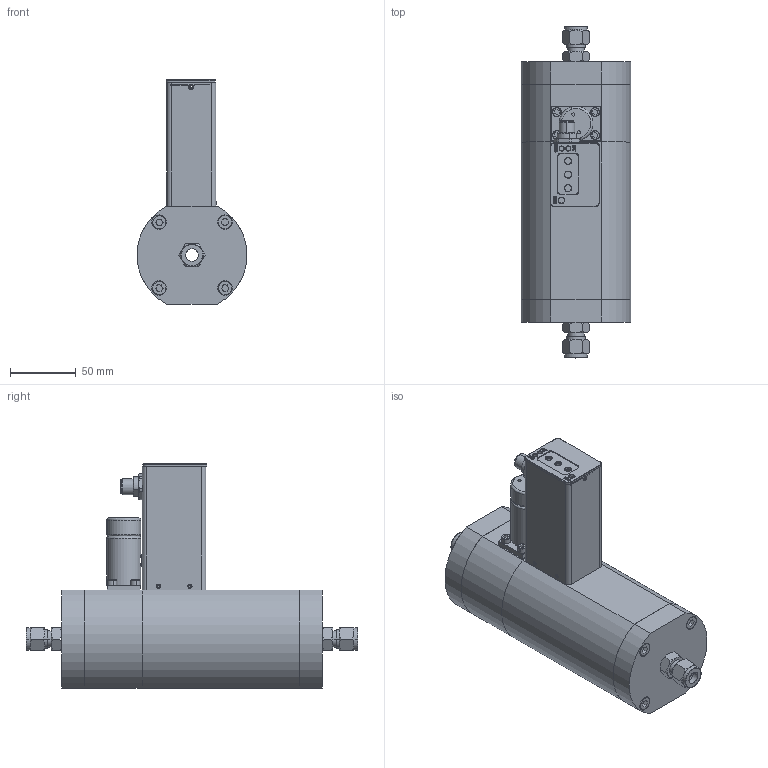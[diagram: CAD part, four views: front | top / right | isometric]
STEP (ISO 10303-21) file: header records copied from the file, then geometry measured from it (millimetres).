
FILE_DESCRIPTION (( 'STEP AP203' ), '1' );
FILE_NAME ('SLA5853-D-2C-2-A-REVB.STEP', '2018-09-17T15:46:30', ( 'mrutkowski' ), ( 'Hewlett-Packard Company' ), 'SwSTEP 2.0', 'SolidWorks 2017', '' );
FILE_SCHEMA (( 'CONFIG_CONTROL_DESIGN' ));
Length unit declared in the file: millimetre
Products named in the file (1): SLA5853-D-2C-2-A-REVB
Bounding box: 83.7 x 253.16 x 171.06 mm (x, y, z)
Surface area: 124557.2 mm2 (no closed solid volume)
Topology: 0 solids, 51 shells, 555 faces, 1811 edges, 1261 vertices
Faces by surface type: plane 221, cylinder 148, cone 121, bspline 57, torus 8
Entity records: 22536 total; most frequent: CARTESIAN_POINT 7027, DIRECTION 3215, ORIENTED_EDGE 2869, EDGE_CURVE 1811, VERTEX_POINT 1261, AXIS2_PLACEMENT_3D 1213, VECTOR 789, LINE 789
